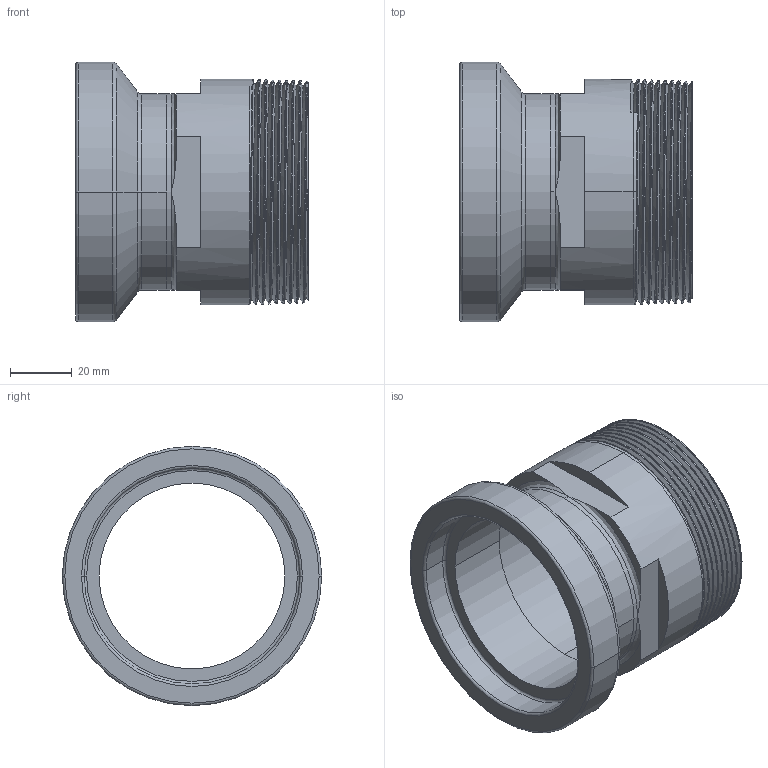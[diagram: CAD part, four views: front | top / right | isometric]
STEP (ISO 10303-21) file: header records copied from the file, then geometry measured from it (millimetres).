
FILE_DESCRIPTION (( 'STEP AP203' ), '1' );
FILE_NAME ('E21I-15I 2.5.STEP', '2021-10-26T18:38:25', ( '' ), ( '' ), 'SwSTEP 2.0', 'SolidWorks 2021', '' );
FILE_SCHEMA (( 'CONFIG_CONTROL_DESIGN' ));
Length unit declared in the file: inch
Products named in the file (3): E15WI2.5; 19WBF2.5; E21I-15I 2.5
Assembly tree (2 placements, depth 2):
  E21I-15I 2.5
    19WBF2.5
    E15WI2.5
Bounding box: 75.4 x 84 x 84 mm (x, y, z)
Volume: 89140.6 mm3; surface area: 42805.9 mm2
Topology: 2 solids, 2 shells, 70 faces, 183 edges, 118 vertices
Faces by surface type: cone 23, plane 18, cylinder 14, torus 12, bspline 3
Entity records: 9072 total; most frequent: CARTESIAN_POINT 7100, ORIENTED_EDGE 366, DIRECTION 334, EDGE_CURVE 183, AXIS2_PLACEMENT_3D 138, VERTEX_POINT 118, EDGE_LOOP 75, FACE_OUTER_BOUND 70
